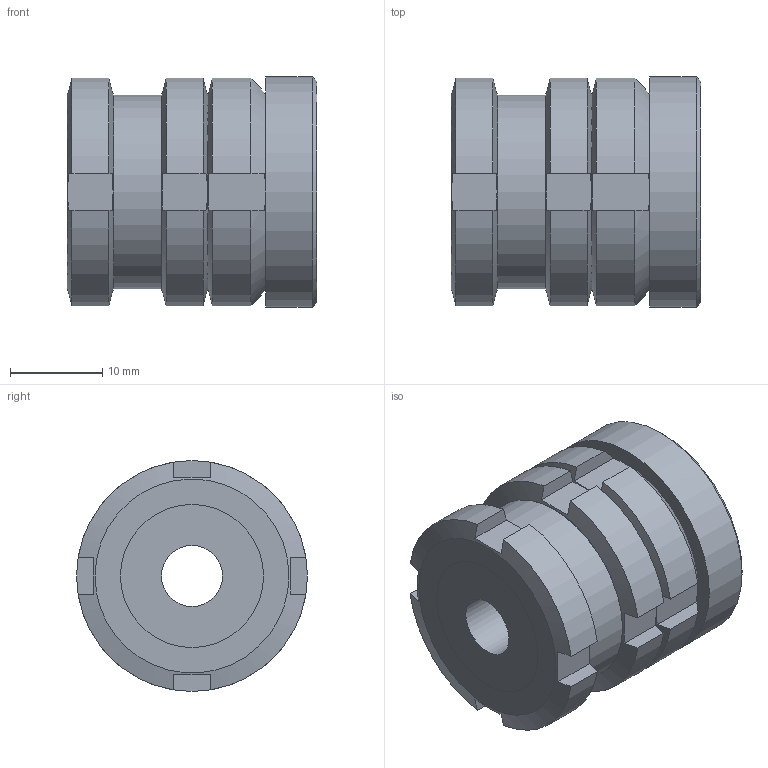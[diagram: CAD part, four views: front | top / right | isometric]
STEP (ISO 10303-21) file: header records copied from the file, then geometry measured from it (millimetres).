
FILE_DESCRIPTION( ( 'STEP AP203' ), '1' );
FILE_NAME( 'C:/Temp/Ganter_Step_05_03_2020/data/3_2/gn350_5/gn350_5_ni/Stainless Steel-Levelling set GN 350.5-25-6,6-27-NI (0-0).stp', '2020-03-13T05:28:44', ( 'License CC BY-ND 4.0' ), ( 'CADENAS' ), ' ', 'PARTsolutions', ' ' );
FILE_SCHEMA( ( 'CONFIG_CONTROL_DESIGN' ) );
Length unit declared in the file: millimetre
Products named in the file (5): Stainless Steel-Levelling set GN 350.5-25-6,6-27-NI (0-0); _Levelling set GN 350.5-25-6,6-27-ST-G; _Levelling set GN 350.5-25-6,6-27-ST-K; _Levelling set GN 350.5-25-6,6-27-ST-P(0); _Levelling set GN 350.5-25-6,6-27-ST-KM
Assembly tree (4 placements, depth 2):
  Stainless Steel-Levelling set GN 350.5-25-6,6-27-NI (0-0)
    _Levelling set GN 350.5-25-6,6-27-ST-G
    _Levelling set GN 350.5-25-6,6-27-ST-K
    _Levelling set GN 350.5-25-6,6-27-ST-P(0)
    _Levelling set GN 350.5-25-6,6-27-ST-KM
Bounding box: 27 x 25 x 25 mm (x, y, z)
Volume: 10863.3 mm3; surface area: 7203.6 mm2
Topology: 4 solids, 4 shells, 84 faces, 209 edges, 139 vertices
Faces by surface type: plane 50, cylinder 24, cone 8, sphere 2
Full cylindrical faces by diameter (mm): 6.6 x1, 10 x1, 11.605 x1, 12.5 x1, 13.917 x2, 15 x2, 15.5 x2, 21 x1, 25 x1
Entity records: 2676 total; most frequent: CARTESIAN_POINT 695, DIRECTION 364, ORIENTED_EDGE 354, EDGE_CURVE 177, AXIS2_PLACEMENT_3D 158, VERTEX_POINT 129, EDGE_LOOP 120, FACE_OUTER_BOUND 98
